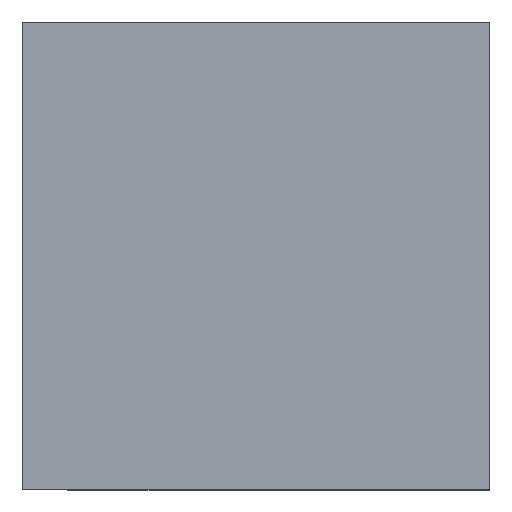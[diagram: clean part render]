
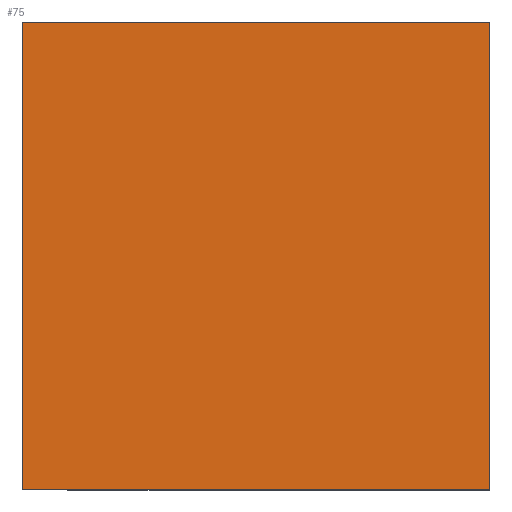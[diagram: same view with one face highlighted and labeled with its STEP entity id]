
A CAD part, top view. The second image highlights one B-rep face of the part: STEP entity #75.
In plain terms, the highlighted planar face has unit normal (0, 0, 1).
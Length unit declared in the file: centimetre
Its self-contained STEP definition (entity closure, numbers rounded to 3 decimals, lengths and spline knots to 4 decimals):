
#2 = ORIENTED_EDGE ( 'NONE', *, *, #1166, .T. ) ;
#75 = ADVANCED_FACE ( 'NONE', ( #888 ), #534, .T. ) ;
#95 = CARTESIAN_POINT ( 'NONE',  ( 0., 1000., 1000. ) ) ;
#128 = CARTESIAN_POINT ( 'NONE',  ( 1000., 1000., 1000. ) ) ;
#220 = VECTOR ( 'NONE', #545, 100. ) ;
#235 = ORIENTED_EDGE ( 'NONE', *, *, #1009, .T. ) ;
#264 = VERTEX_POINT ( 'NONE', #991 ) ;
#296 = EDGE_LOOP ( 'NONE', ( #235, #1118, #333, #2 ) ) ;
#333 = ORIENTED_EDGE ( 'NONE', *, *, #747, .T. ) ;
#429 = LINE ( 'NONE', #716, #717 ) ;
#436 = CARTESIAN_POINT ( 'NONE',  ( 1000., 0., 1000. ) ) ;
#463 = DIRECTION ( 'NONE',  ( 0., -1., 0. ) ) ;
#522 = CARTESIAN_POINT ( 'NONE',  ( 0., 0., 1000. ) ) ;
#530 = VECTOR ( 'NONE', #547, 100. ) ;
#534 = PLANE ( 'NONE',  #1149 ) ;
#545 = DIRECTION ( 'NONE',  ( 0., 1., 0. ) ) ;
#547 = DIRECTION ( 'NONE',  ( 1., 0., 0. ) ) ;
#565 = LINE ( 'NONE', #654, #530 ) ;
#590 = VERTEX_POINT ( 'NONE', #798 ) ;
#654 = CARTESIAN_POINT ( 'NONE',  ( 0., 0., 1000. ) ) ;
#710 = DIRECTION ( 'NONE',  ( 0., 0., 1. ) ) ;
#716 = CARTESIAN_POINT ( 'NONE',  ( 0., 1000., 1000. ) ) ;
#717 = VECTOR ( 'NONE', #814, 100. ) ;
#736 = VERTEX_POINT ( 'NONE', #436 ) ;
#742 = LINE ( 'NONE', #1102, #220 ) ;
#747 = EDGE_CURVE ( 'NONE', #736, #1096, #742, .T. ) ;
#798 = CARTESIAN_POINT ( 'NONE',  ( 0., 0., 1000. ) ) ;
#806 = VECTOR ( 'NONE', #463, 100. ) ;
#814 = DIRECTION ( 'NONE',  ( -1., 0., 0. ) ) ;
#835 = EDGE_CURVE ( 'NONE', #590, #736, #565, .T. ) ;
#880 = DIRECTION ( 'NONE',  ( 1., 0., 0. ) ) ;
#888 = FACE_OUTER_BOUND ( 'NONE', #296, .T. ) ;
#915 = LINE ( 'NONE', #95, #806 ) ;
#991 = CARTESIAN_POINT ( 'NONE',  ( 0., 1000., 1000. ) ) ;
#1009 = EDGE_CURVE ( 'NONE', #264, #590, #915, .T. ) ;
#1096 = VERTEX_POINT ( 'NONE', #128 ) ;
#1102 = CARTESIAN_POINT ( 'NONE',  ( 1000., 1000., 1000. ) ) ;
#1118 = ORIENTED_EDGE ( 'NONE', *, *, #835, .T. ) ;
#1149 = AXIS2_PLACEMENT_3D ( 'NONE', #522, #710, #880 ) ;
#1166 = EDGE_CURVE ( 'NONE', #1096, #264, #429, .T. ) ;
